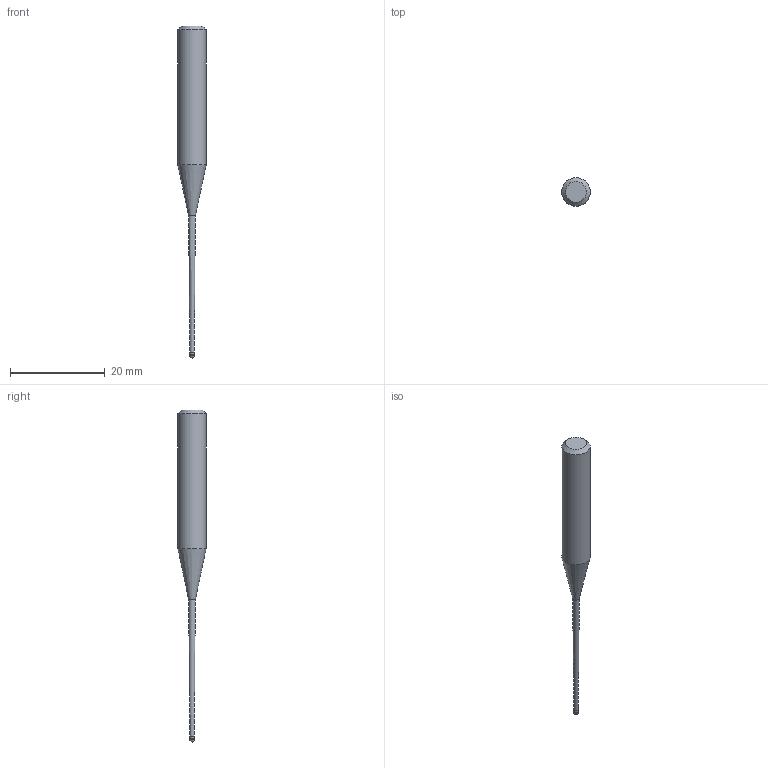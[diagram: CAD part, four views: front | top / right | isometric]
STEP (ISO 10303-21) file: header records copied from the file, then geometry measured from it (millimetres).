
FILE_DESCRIPTION((''),'2;1');
FILE_NAME('C:\Users\nsx150\AppData\Local\Temp\Mastercam 2021\E0ENTZRV18\TEMP.step','2021-09-02T09:55:59',(''),(''),'STEP Write','Mastercam 2021 ... CNC Software, Inc.','');
FILE_SCHEMA(('AUTOMOTIVE_DESIGN'));
Length unit declared in the file: millimetre
Products named in the file (1): None
Bounding box: 6 x 6 x 70 mm (x, y, z)
Volume: 983.9 mm3; surface area: 808.1 mm2
Topology: 2 solids, 2 shells, 10 faces, 16 edges, 9 vertices
Faces by surface type: plane 3, cylinder 3, cone 3, sphere 1
Full cylindrical faces by diameter (mm): 0.905 x1, 1 x1, 6 x1
Entity records: 232 total; most frequent: DIRECTION 40, CARTESIAN_POINT 28, AXIS2_PLACEMENT_3D 20, ORIENTED_EDGE 16, EDGE_LOOP 16, STYLED_ITEM 13, ADVANCED_FACE 10, FACE_BOUND 9
